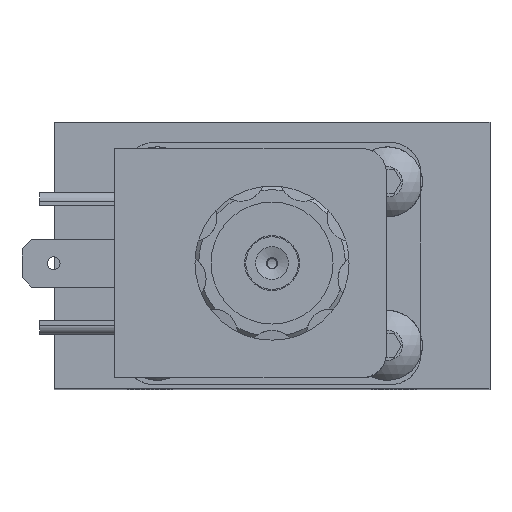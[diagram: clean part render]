
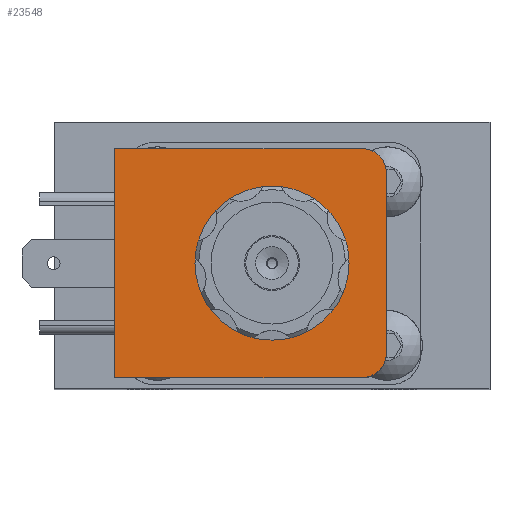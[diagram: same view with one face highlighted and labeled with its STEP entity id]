
A CAD part, top view. The second image highlights one B-rep face of the part: STEP entity #23548.
In plain terms, the highlighted planar face has unit normal (0, 0, 1).
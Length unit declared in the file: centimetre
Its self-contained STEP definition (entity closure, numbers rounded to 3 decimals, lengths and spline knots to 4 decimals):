
#638=LINE('',#34800,#2165);
#639=LINE('',#34804,#2166);
#640=LINE('',#34806,#2167);
#641=LINE('',#34807,#2168);
#2165=VECTOR('',#27859,2.365);
#2166=VECTOR('',#27862,3.2425);
#2167=VECTOR('',#27863,3.);
#2168=VECTOR('',#27864,3.2425);
#3986=PLANE('',#25089);
#4642=FACE_BOUND('',#6616,.T.);
#5111=FACE_OUTER_BOUND('',#6615,.T.);
#6615=EDGE_LOOP('',(#15268,#15269,#15270,#15271,#15272,#15273));
#6616=EDGE_LOOP('',(#15274));
#8561=CIRCLE('',#25090,0.3175);
#8562=CIRCLE('',#25091,0.3175);
#8563=CIRCLE('',#25092,1.01);
#9830=VERTEX_POINT('',#34796);
#9831=VERTEX_POINT('',#34797);
#9832=VERTEX_POINT('',#34799);
#9833=VERTEX_POINT('',#34801);
#9834=VERTEX_POINT('',#34803);
#9835=VERTEX_POINT('',#34805);
#9836=VERTEX_POINT('',#34808);
#12016=EDGE_CURVE('',#9830,#9831,#8561,.T.);
#12017=EDGE_CURVE('',#9832,#9830,#638,.T.);
#12018=EDGE_CURVE('',#9833,#9832,#8562,.T.);
#12019=EDGE_CURVE('',#9833,#9834,#639,.T.);
#12020=EDGE_CURVE('',#9834,#9835,#640,.T.);
#12021=EDGE_CURVE('',#9831,#9835,#641,.T.);
#12022=EDGE_CURVE('',#9836,#9836,#8563,.T.);
#15268=ORIENTED_EDGE('',*,*,#12016,.F.);
#15269=ORIENTED_EDGE('',*,*,#12017,.F.);
#15270=ORIENTED_EDGE('',*,*,#12018,.F.);
#15271=ORIENTED_EDGE('',*,*,#12019,.T.);
#15272=ORIENTED_EDGE('',*,*,#12020,.T.);
#15273=ORIENTED_EDGE('',*,*,#12021,.F.);
#15274=ORIENTED_EDGE('',*,*,#12022,.T.);
#23548=ADVANCED_FACE('',(#5111,#4642),#3986,.T.);
#25089=AXIS2_PLACEMENT_3D('',#34795,#27855,#27856);
#25090=AXIS2_PLACEMENT_3D('',#34798,#27857,#27858);
#25091=AXIS2_PLACEMENT_3D('',#34802,#27860,#27861);
#25092=AXIS2_PLACEMENT_3D('',#34809,#27865,#27866);
#27855=DIRECTION('center_axis',(0.,0.,
1.));
#27856=DIRECTION('ref_axis',(-1.,0.,0.));
#27857=DIRECTION('center_axis',(0.,0.,
-1.));
#27858=DIRECTION('ref_axis',(0.707,-0.707,0.));
#27859=DIRECTION('',(0.,-1.,0.));
#27860=DIRECTION('center_axis',(0.,0.,
-1.));
#27861=DIRECTION('ref_axis',(0.707,0.707,0.));
#27862=DIRECTION('',(-1.,0.,0.));
#27863=DIRECTION('',(0.,-1.,0.));
#27864=DIRECTION('',(-1.,0.,0.));
#27865=DIRECTION('center_axis',(0.,0.,
-1.));
#27866=DIRECTION('ref_axis',(1.,0.,0.));
#34795=CARTESIAN_POINT('Origin',(1.4986,3.1358,9.8636));
#34796=CARTESIAN_POINT('',(1.4986,0.4533,9.8636));
#34797=CARTESIAN_POINT('',(1.1811,0.1358,9.8636));
#34798=CARTESIAN_POINT('Origin',(1.1811,0.4533,9.8636));
#34799=CARTESIAN_POINT('',(1.4986,2.8183,9.8636));
#34800=CARTESIAN_POINT('',(1.4986,3.1358,9.8636));
#34801=CARTESIAN_POINT('',(1.1811,3.1358,9.8636));
#34802=CARTESIAN_POINT('Origin',(1.1811,2.8183,9.8636));
#34803=CARTESIAN_POINT('',(-2.0614,3.1358,9.8636));
#34804=CARTESIAN_POINT('',(1.4986,3.1358,9.8636));
#34805=CARTESIAN_POINT('',(-2.0614,0.1358,9.8636));
#34806=CARTESIAN_POINT('',(-2.0614,3.1358,9.8636));
#34807=CARTESIAN_POINT('',(1.4986,0.1358,9.8636));
#34808=CARTESIAN_POINT('',(1.01,1.6358,9.8636));
#34809=CARTESIAN_POINT('Origin',(0.,1.6358,9.8636));
